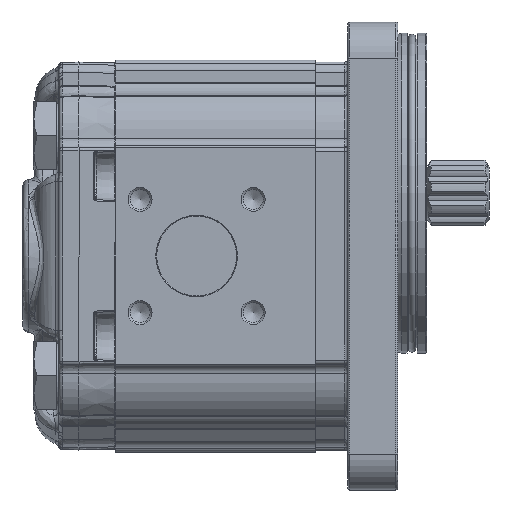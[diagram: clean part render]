
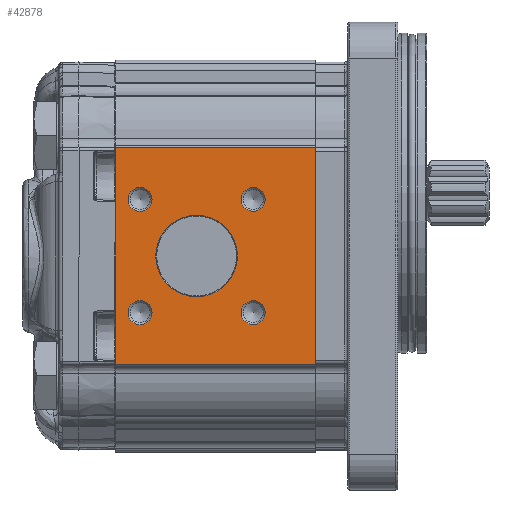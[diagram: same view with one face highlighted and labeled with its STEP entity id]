
A CAD part, left-side view. The second image highlights one B-rep face of the part: STEP entity #42878.
In plain terms, the highlighted planar face has unit normal (-1, 0, 0).
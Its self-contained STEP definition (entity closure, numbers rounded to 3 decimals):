
#2506=PLANE('',#45308);
#3247=LINE('',#59863,#4901);
#3248=LINE('',#59866,#4902);
#3249=LINE('',#59868,#4903);
#3250=LINE('',#59870,#4904);
#4901=VECTOR('',#49655,1000.);
#4902=VECTOR('',#49656,1000.);
#4903=VECTOR('',#49657,1000.);
#4904=VECTOR('',#49658,1000.);
#8594=ORIENTED_EDGE('',*,*,#16449,.T.);
#8595=ORIENTED_EDGE('',*,*,#16450,.T.);
#8596=ORIENTED_EDGE('',*,*,#16451,.T.);
#8597=ORIENTED_EDGE('',*,*,#16452,.T.);
#8598=ORIENTED_EDGE('',*,*,#16453,.T.);
#8599=ORIENTED_EDGE('',*,*,#16454,.F.);
#8600=ORIENTED_EDGE('',*,*,#16455,.F.);
#8601=ORIENTED_EDGE('',*,*,#16456,.T.);
#8602=ORIENTED_EDGE('',*,*,#16457,.T.);
#16449=EDGE_CURVE('',#20542,#20542,#23119,.F.);
#16450=EDGE_CURVE('',#20543,#20543,#23120,.F.);
#16451=EDGE_CURVE('',#20544,#20544,#23121,.F.);
#16452=EDGE_CURVE('',#20545,#20545,#23122,.F.);
#16453=EDGE_CURVE('',#20546,#20546,#23123,.F.);
#16454=EDGE_CURVE('',#20547,#20548,#3247,.T.);
#16455=EDGE_CURVE('',#20549,#20547,#3248,.T.);
#16456=EDGE_CURVE('',#20549,#20550,#3249,.T.);
#16457=EDGE_CURVE('',#20550,#20548,#3250,.T.);
#20542=VERTEX_POINT('',#59854);
#20543=VERTEX_POINT('',#59856);
#20544=VERTEX_POINT('',#59858);
#20545=VERTEX_POINT('',#59860);
#20546=VERTEX_POINT('',#59862);
#20547=VERTEX_POINT('',#59864);
#20548=VERTEX_POINT('',#59865);
#20549=VERTEX_POINT('',#59867);
#20550=VERTEX_POINT('',#59869);
#23119=CIRCLE('',#45309,10.2);
#23120=CIRCLE('',#45310,3.);
#23121=CIRCLE('',#45311,3.);
#23122=CIRCLE('',#45312,3.);
#23123=CIRCLE('',#45313,3.);
#24662=EDGE_LOOP('',(#8594));
#24663=EDGE_LOOP('',(#8595));
#24664=EDGE_LOOP('',(#8596));
#24665=EDGE_LOOP('',(#8597));
#24666=EDGE_LOOP('',(#8598));
#24667=EDGE_LOOP('',(#8599,#8600,#8601,#8602));
#26849=FACE_BOUND('',#24662,.T.);
#26850=FACE_BOUND('',#24663,.T.);
#26851=FACE_BOUND('',#24664,.T.);
#26852=FACE_BOUND('',#24665,.T.);
#26853=FACE_BOUND('',#24666,.T.);
#26854=FACE_BOUND('',#24667,.T.);
#42878=ADVANCED_FACE('',(#26849,#26850,#26851,#26852,#26853,#26854),#2506,
 .T.);
#45308=AXIS2_PLACEMENT_3D('',#59852,#49643,#49644);
#45309=AXIS2_PLACEMENT_3D('',#59853,#49645,#49646);
#45310=AXIS2_PLACEMENT_3D('',#59855,#49647,#49648);
#45311=AXIS2_PLACEMENT_3D('',#59857,#49649,#49650);
#45312=AXIS2_PLACEMENT_3D('',#59859,#49651,#49652);
#45313=AXIS2_PLACEMENT_3D('',#59861,#49653,#49654);
#49643=DIRECTION('',(-1.,0.,0.));
#49644=DIRECTION('',(0.,0.,1.));
#49645=DIRECTION('',(-1.,0.,0.));
#49646=DIRECTION('',(0.,0.,1.));
#49647=DIRECTION('',(-1.,0.,0.));
#49648=DIRECTION('',(0.,0.,1.));
#49649=DIRECTION('',(-1.,0.,0.));
#49650=DIRECTION('',(0.,0.,1.));
#49651=DIRECTION('',(-1.,0.,0.));
#49652=DIRECTION('',(0.,0.,1.));
#49653=DIRECTION('',(-1.,0.,0.));
#49654=DIRECTION('',(0.,0.,1.));
#49655=DIRECTION('',(0.,0.,-1.));
#49656=DIRECTION('',(0.,-1.,0.));
#49657=DIRECTION('',(0.,0.,-1.));
#49658=DIRECTION('',(0.,-1.,0.));
#59852=CARTESIAN_POINT('',(-43.,50.,27.048));
#59853=CARTESIAN_POINT('',(-43.,29.6,0.));
#59854=CARTESIAN_POINT('',(-43.,29.6,10.2));
#59855=CARTESIAN_POINT('',(-43.,43.742,-14.142));
#59856=CARTESIAN_POINT('',(-43.,43.742,-11.142));
#59857=CARTESIAN_POINT('',(-43.,43.742,14.142));
#59858=CARTESIAN_POINT('',(-43.,43.742,17.142));
#59859=CARTESIAN_POINT('',(-43.,15.458,14.142));
#59860=CARTESIAN_POINT('',(-43.,15.458,17.142));
#59861=CARTESIAN_POINT('',(-43.,15.458,-14.142));
#59862=CARTESIAN_POINT('',(-43.,15.458,-11.142));
#59863=CARTESIAN_POINT('',(-43.,0.,27.048));
#59864=CARTESIAN_POINT('',(-43.,0.,27.048));
#59865=CARTESIAN_POINT('',(-43.,0.,-27.048));
#59866=CARTESIAN_POINT('',(-43.,50.,27.048));
#59867=CARTESIAN_POINT('',(-43.,50.,27.048));
#59868=CARTESIAN_POINT('',(-43.,50.,27.048));
#59869=CARTESIAN_POINT('',(-43.,50.,-27.048));
#59870=CARTESIAN_POINT('',(-43.,50.,-27.048));
